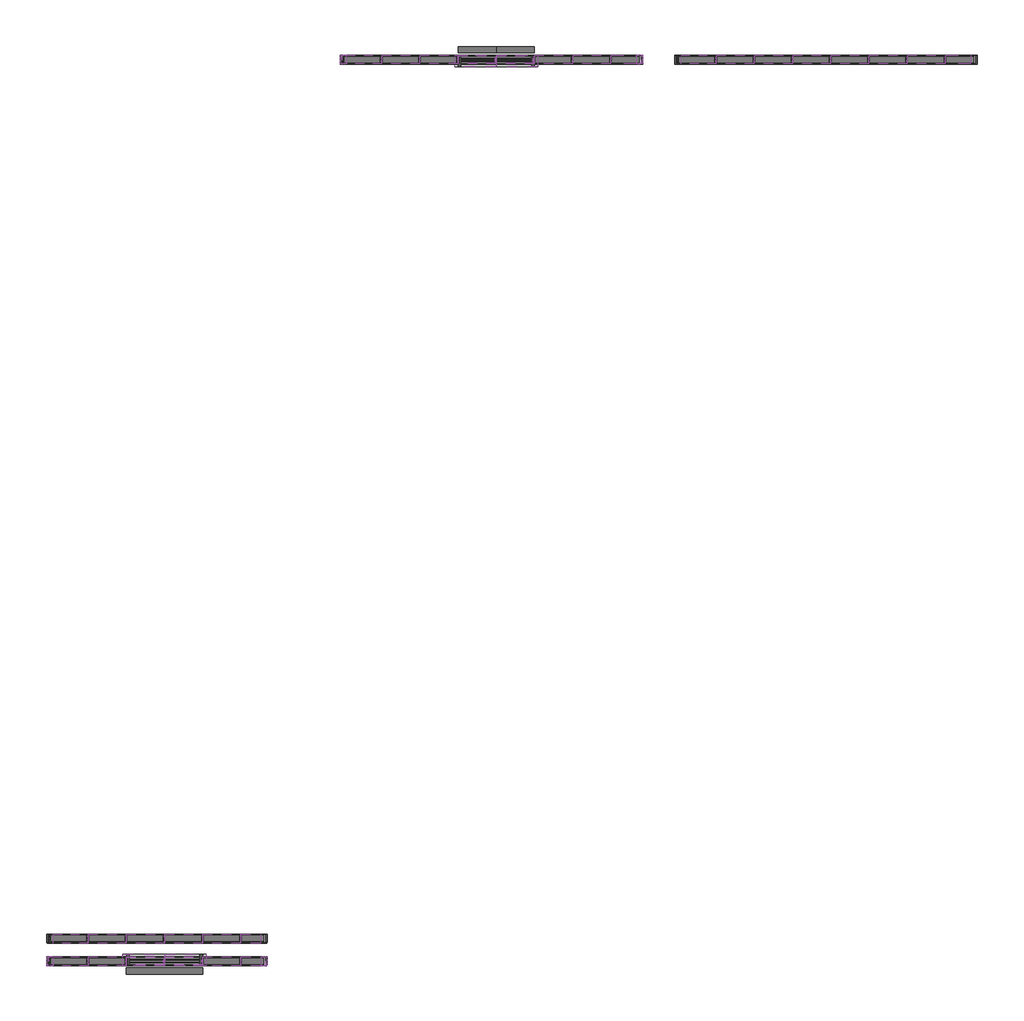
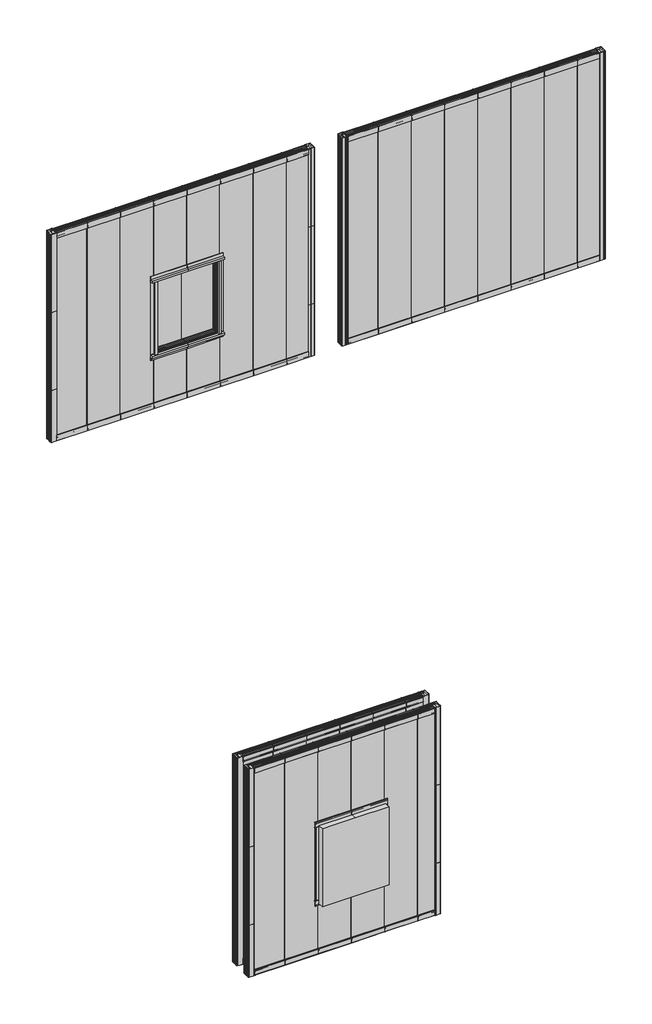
# One storey: 84 members, 35 plates.
"""IFC4 building model written with IfcOpenShell, lengths in millimetres."""

from ifc_helpers import new_model, si_unit, origin, place, context, project, spatial, transform, mapped, element, save
from components import rectangular_mullion_01f2946b, rectangular_mullion_2936a97d, rectangular_mullion_1fbdb84d, rectangular_mullion_70242c1d, rectangular_mullion_5fa05575, rectangular_mullion_d2092e84, rectangular_mullion_fbaaf38e, rectangular_mullion_ddbf69e2, rectangular_mullion_852f4a10, rectangular_mullion_49b8ade9, rectangular_mullion_8b3feda1, rectangular_mullion_a3500bbd, rectangular_mullion_28affbc6, rectangular_mullion_942cc931, rectangular_mullion_b4a1a5f1, rectangular_mullion_7adac3f0, rectangular_mullion_8cb09d31, rectangular_mullion_b986652d, rectangular_mullion_547a187c, rectangular_mullion_7d930778, rectangular_mullion_a5aec3a2, rectangular_mullion_7335db9d, rectangular_mullion_fd8bee49, rectangular_mullion_542187d4, rectangular_mullion_270d84ba, rectangular_mullion_623c11ca, rectangular_mullion_7f755270, rectangular_mullion_ff423d24, rectangular_mullion_3d357507, rectangular_mullion_f1b3a113, rectangular_mullion_227ebff7, rectangular_mullion_7b4f4ae0, plate_ff002d2a, plate_b110d553, plate_f4df6e33, plate_dc679179, plate_ac36bfde, plate_43dbd124, plate_925df577, plate_27379fa9, plate_14fe3c05, plate_b84fe445, empty_system_panel_empty_9b879c41, empty_system_panel_empty_1e4b9aef

model = new_model("IFC4")

# Units and contexts
model_context = context("Model", 3, world=origin())
ifc_project = project(units=[si_unit("LENGTHUNIT", "METRE", prefix="MILLI")], contexts=[model_context])

# Site, building, storey
site = spatial("IfcSite", under=ifc_project)
building = spatial("IfcBuilding", under=site)
storey = spatial("IfcBuildingStorey", under=building, Name="Danpal-K12", Elevation=0.0)

# Members
placement = place(None, origin())
rectangular_mullion_shape = rectangular_mullion_01f2946b(model_context)
element("IfcMember", 1, ObjectType="Rectangular Mullion : Danpal_K12_End-Mullion_B1", at=placement, inside=storey, context=model_context, shape_type="MappedRepresentation", body=[
    mapped(rectangular_mullion_shape, transform((764.2822678, 2597.5512666, 4000.0), x_axis=(-1.0, 0.0, 0.0), y_axis=(0.0, -1.0, 0.0), z_axis=(0.0, 0.0, 1.0))),
])
rectangular_mullion_2_shape = rectangular_mullion_2936a97d(model_context)
element("IfcMember", 2, ObjectType="Rectangular Mullion : Danpal_K12_End-Mullion_B2", at=placement, inside=storey, context=model_context, shape_type="MappedRepresentation", body=[
    mapped(rectangular_mullion_2_shape, transform((4264.2822678, 2597.5512666, 0.0), x_axis=(1.0, 0.0, 0.0), y_axis=(0.0, -1.0, 0.0), z_axis=(0.0, 0.0, -1.0))),
])
rectangular_mullion_3_shape = rectangular_mullion_1fbdb84d(model_context)
element("IfcMember", 3, ObjectType="Rectangular Mullion : Danpal_K12_End-Mullion_B2", at=placement, inside=storey, context=model_context, shape_type="MappedRepresentation", body=[
    mapped(rectangular_mullion_3_shape, transform((2029.8999142, 2237.5512666, 4000.0), x_axis=(0.0, 0.0, 1.0), y_axis=(0.0, -1.0, 0.0), z_axis=(1.0, 0.0, 0.0))),
])
element("IfcMember", 4, ObjectType="Rectangular Mullion : Danpal_K12_End-Mullion_B2", at=placement, inside=storey, context=model_context, shape_type="MappedRepresentation", body=[
    mapped(rectangular_mullion_3_shape, transform((2634.8999142, 2237.5512666, 4000.0), x_axis=(0.0, 0.0, 1.0), y_axis=(0.0, -1.0, 0.0), z_axis=(1.0, 0.0, 0.0))),
])
element("IfcMember", 5, ObjectType="Rectangular Mullion : Danpal_K12_End-Mullion_B2", at=placement, inside=storey, context=model_context, shape_type="MappedRepresentation", body=[
    mapped(rectangular_mullion_3_shape, transform((3239.8999142, 2237.5512666, 4000.0), x_axis=(0.0, 0.0, 1.0), y_axis=(0.0, -1.0, 0.0), z_axis=(1.0, 0.0, 0.0))),
])
element("IfcMember", 6, ObjectType="Rectangular Mullion : Danpal_K12_End-Mullion_B2", at=placement, inside=storey, context=model_context, shape_type="MappedRepresentation", body=[
    mapped(rectangular_mullion_3_shape, transform((3844.8999142, 2237.5512666, 4000.0), x_axis=(0.0, 0.0, 1.0), y_axis=(0.0, -1.0, 0.0), z_axis=(1.0, 0.0, 0.0))),
])
element("IfcMember", 7, ObjectType="Rectangular Mullion : Danpal_K12_End-Mullion_B2", at=placement, inside=storey, context=model_context, shape_type="MappedRepresentation", body=[
    mapped(rectangular_mullion_3_shape, transform((2029.8999142, 2597.5512666, 4000.0), x_axis=(0.0, 0.0, 1.0), y_axis=(0.0, -1.0, 0.0), z_axis=(1.0, 0.0, 0.0))),
])
element("IfcMember", 8, ObjectType="Rectangular Mullion : Danpal_K12_End-Mullion_B2", at=placement, inside=storey, context=model_context, shape_type="MappedRepresentation", body=[
    mapped(rectangular_mullion_3_shape, transform((2634.8999142, 2597.5512666, 4000.0), x_axis=(0.0, 0.0, 1.0), y_axis=(0.0, -1.0, 0.0), z_axis=(1.0, 0.0, 0.0))),
])
element("IfcMember", 9, ObjectType="Rectangular Mullion : Danpal_K12_End-Mullion_B2", at=placement, inside=storey, context=model_context, shape_type="MappedRepresentation", body=[
    mapped(rectangular_mullion_3_shape, transform((3239.8999142, 2597.5512666, 4000.0), x_axis=(0.0, 0.0, 1.0), y_axis=(0.0, -1.0, 0.0), z_axis=(1.0, 0.0, 0.0))),
])
element("IfcMember", 10, ObjectType="Rectangular Mullion : Danpal_K12_End-Mullion_B2", at=placement, inside=storey, context=model_context, shape_type="MappedRepresentation", body=[
    mapped(rectangular_mullion_3_shape, transform((3844.8999142, 2597.5512666, 4000.0), x_axis=(0.0, 0.0, 1.0), y_axis=(0.0, -1.0, 0.0), z_axis=(1.0, 0.0, 0.0))),
])
rectangular_mullion_4_shape = rectangular_mullion_70242c1d(model_context)
element("IfcMember", 11, ObjectType="Rectangular Mullion : Danpal_K12_End-Mullion_B1", at=placement, inside=storey, context=model_context, shape_type="MappedRepresentation", body=[
    mapped(rectangular_mullion_4_shape, transform((2029.8999142, 2237.5512666, 0.0), x_axis=(0.0, 0.0, -1.0), y_axis=(0.0, -1.0, 0.0), z_axis=(-1.0, 0.0, 0.0))),
])
element("IfcMember", 12, ObjectType="Rectangular Mullion : Danpal_K12_End-Mullion_B1", at=placement, inside=storey, context=model_context, shape_type="MappedRepresentation", body=[
    mapped(rectangular_mullion_4_shape, transform((2634.8999142, 2237.5512666, 0.0), x_axis=(0.0, 0.0, -1.0), y_axis=(0.0, -1.0, 0.0), z_axis=(-1.0, 0.0, 0.0))),
])
element("IfcMember", 13, ObjectType="Rectangular Mullion : Danpal_K12_End-Mullion_B1", at=placement, inside=storey, context=model_context, shape_type="MappedRepresentation", body=[
    mapped(rectangular_mullion_4_shape, transform((3239.8999142, 2237.5512666, 0.0), x_axis=(0.0, 0.0, -1.0), y_axis=(0.0, -1.0, 0.0), z_axis=(-1.0, 0.0, 0.0))),
])
element("IfcMember", 14, ObjectType="Rectangular Mullion : Danpal_K12_End-Mullion_B1", at=placement, inside=storey, context=model_context, shape_type="MappedRepresentation", body=[
    mapped(rectangular_mullion_4_shape, transform((2029.8999142, 2597.5512666, 0.0), x_axis=(0.0, 0.0, -1.0), y_axis=(0.0, -1.0, 0.0), z_axis=(-1.0, 0.0, 0.0))),
])
element("IfcMember", 15, ObjectType="Rectangular Mullion : Danpal_K12_End-Mullion_B1", at=placement, inside=storey, context=model_context, shape_type="MappedRepresentation", body=[
    mapped(rectangular_mullion_4_shape, transform((2634.8999142, 2597.5512666, 0.0), x_axis=(0.0, 0.0, -1.0), y_axis=(0.0, -1.0, 0.0), z_axis=(-1.0, 0.0, 0.0))),
])
element("IfcMember", 16, ObjectType="Rectangular Mullion : Danpal_K12_End-Mullion_B1", at=placement, inside=storey, context=model_context, shape_type="MappedRepresentation", body=[
    mapped(rectangular_mullion_4_shape, transform((3239.8999142, 2597.5512666, 0.0), x_axis=(0.0, 0.0, -1.0), y_axis=(0.0, -1.0, 0.0), z_axis=(-1.0, 0.0, 0.0))),
])
element("IfcMember", 17, ObjectType="Rectangular Mullion : Danpal_K12_End-Mullion_B1", at=placement, inside=storey, context=model_context, shape_type="MappedRepresentation", body=[
    mapped(rectangular_mullion_4_shape, transform((1424.8999142, 2237.5512666, 0.0), x_axis=(0.0, 0.0, -1.0), y_axis=(0.0, -1.0, 0.0), z_axis=(-1.0, 0.0, 0.0))),
])
element("IfcMember", 18, ObjectType="Rectangular Mullion : Danpal_K12_End-Mullion_B1", at=placement, inside=storey, context=model_context, shape_type="MappedRepresentation", body=[
    mapped(rectangular_mullion_4_shape, transform((1424.8999142, 2597.5512666, 0.0), x_axis=(0.0, 0.0, -1.0), y_axis=(0.0, -1.0, 0.0), z_axis=(-1.0, 0.0, 0.0))),
])
rectangular_mullion_5_shape = rectangular_mullion_5fa05575(model_context)
element("IfcMember", 19, ObjectType="Rectangular Mullion : Danpal_K12_Middle-Mullion_B2", at=placement, inside=storey, context=model_context, shape_type="MappedRepresentation", body=[
    mapped(rectangular_mullion_5_shape, transform((2634.8999142, 2237.5512666, 1000.0), x_axis=(0.0, 0.0, 1.0), y_axis=(0.0, -1.0, 0.0), z_axis=(1.0, 0.0, 0.0))),
])
element("IfcMember", 20, ObjectType="Rectangular Mullion : Danpal_K12_Middle-Mullion_B2", at=placement, inside=storey, context=model_context, shape_type="MappedRepresentation", body=[
    mapped(rectangular_mullion_5_shape, transform((3295.5175607, 2237.5512666, 1000.0), x_axis=(0.0, 0.0, 1.0), y_axis=(0.0, -1.0, 0.0), z_axis=(1.0, 0.0, 0.0))),
])
rectangular_mullion_6_shape = rectangular_mullion_d2092e84(model_context)
element("IfcMember", 21, ObjectType="Rectangular Mullion : Danpal_K12_Middle-Mullion_B1", at=placement, inside=storey, context=model_context, shape_type="MappedRepresentation", body=[
    mapped(rectangular_mullion_6_shape, transform((2634.8999142, 2237.5512666, 2500.0), x_axis=(0.0, 0.0, 1.0), y_axis=(0.0, -1.0, 0.0), z_axis=(1.0, 0.0, 0.0))),
])
element("IfcMember", 22, ObjectType="Rectangular Mullion : Danpal_K12_Middle-Mullion_B1", at=placement, inside=storey, context=model_context, shape_type="MappedRepresentation", body=[
    mapped(rectangular_mullion_6_shape, transform((3295.5175607, 2237.5512666, 2500.0), x_axis=(0.0, 0.0, 1.0), y_axis=(0.0, -1.0, 0.0), z_axis=(1.0, 0.0, 0.0))),
])
rectangular_mullion_7_shape = rectangular_mullion_fbaaf38e(model_context)
element("IfcMember", 23, ObjectType="Rectangular Mullion : Danpal_K12_Middle-Mullion_B1", at=placement, inside=storey, context=model_context, shape_type="MappedRepresentation", body=[
    mapped(rectangular_mullion_7_shape, transform((3239.8999142, 2237.5512666, 1050.7940962), x_axis=(1.0, 0.0, 0.0), y_axis=(0.0, -1.0, 0.0), z_axis=(0.0, 0.0, -1.0))),
])
rectangular_mullion_8_shape = rectangular_mullion_ddbf69e2(model_context)
element("IfcMember", 24, ObjectType="Rectangular Mullion : Danpal_K12_Middle-Mullion_B2", at=placement, inside=storey, context=model_context, shape_type="MappedRepresentation", body=[
    mapped(rectangular_mullion_8_shape, transform((2029.8999142, 2237.5512666, 1050.7940962), x_axis=(1.0, 0.0, 0.0), y_axis=(0.0, -1.0, 0.0), z_axis=(0.0, 0.0, -1.0))),
])
rectangular_mullion_9_shape = rectangular_mullion_852f4a10(model_context)
element("IfcMember", 25, ObjectType="Rectangular Mullion : Danpal_K12_End-Mullion_B1", at=placement, inside=storey, context=model_context, shape_type="MappedRepresentation", body=[
    mapped(rectangular_mullion_9_shape, transform((764.2822678, 2237.5512666, 2500.0), x_axis=(-1.0, 0.0, 0.0), y_axis=(0.0, -1.0, 0.0), z_axis=(0.0, 0.0, 1.0))),
])
rectangular_mullion_10_shape = rectangular_mullion_49b8ade9(model_context)
element("IfcMember", 26, ObjectType="Rectangular Mullion : Danpal_K12_End-Mullion_B2", at=placement, inside=storey, context=model_context, shape_type="MappedRepresentation", body=[
    mapped(rectangular_mullion_10_shape, transform((4264.2822678, 2237.5512666, 1000.0), x_axis=(1.0, 0.0, 0.0), y_axis=(0.0, -1.0, 0.0), z_axis=(0.0, 0.0, -1.0))),
])
rectangular_mullion_11_shape = rectangular_mullion_8b3feda1(model_context)
element("IfcMember", 27, ObjectType="Rectangular Mullion : Danpal_K12_End-Mullion_B1", at=placement, inside=storey, context=model_context, shape_type="MappedRepresentation", body=[
    mapped(rectangular_mullion_11_shape, transform((764.2822678, 2237.5512666, 1000.0), x_axis=(-1.0, 0.0, 0.0), y_axis=(0.0, -1.0, 0.0), z_axis=(0.0, 0.0, 1.0))),
])
rectangular_mullion_12_shape = rectangular_mullion_a3500bbd(model_context)
element("IfcMember", 28, ObjectType="Rectangular Mullion : Danpal_K12_End-Mullion_B2", at=placement, inside=storey, context=model_context, shape_type="MappedRepresentation", body=[
    mapped(rectangular_mullion_12_shape, transform((4264.2822678, 2237.5512666, 0.0), x_axis=(1.0, 0.0, 0.0), y_axis=(0.0, -1.0, 0.0), z_axis=(0.0, 0.0, -1.0))),
])
rectangular_mullion_13_shape = rectangular_mullion_28affbc6(model_context)
element("IfcMember", 29, ObjectType="Rectangular Mullion : Danpal_K12_End-Mullion_B1", at=placement, inside=storey, context=model_context, shape_type="MappedRepresentation", body=[
    mapped(rectangular_mullion_13_shape, transform((870.6940104, 2237.5512666, 0.0), x_axis=(0.0, 0.0, -1.0), y_axis=(0.0, -1.0, 0.0), z_axis=(-1.0, 0.0, 0.0))),
])
element("IfcMember", 30, ObjectType="Rectangular Mullion : Danpal_K12_End-Mullion_B1", at=placement, inside=storey, context=model_context, shape_type="MappedRepresentation", body=[
    mapped(rectangular_mullion_13_shape, transform((870.6940104, 2597.5512666, 0.0), x_axis=(0.0, 0.0, -1.0), y_axis=(0.0, -1.0, 0.0), z_axis=(-1.0, 0.0, 0.0))),
])
rectangular_mullion_14_shape = rectangular_mullion_942cc931(model_context)
element("IfcMember", 31, ObjectType="Rectangular Mullion : Danpal_K12_End-Mullion_B2", at=placement, inside=storey, context=model_context, shape_type="MappedRepresentation", body=[
    mapped(rectangular_mullion_14_shape, transform((1424.8999142, 2237.5512666, 4000.0), x_axis=(0.0, 0.0, 1.0), y_axis=(0.0, -1.0, 0.0), z_axis=(1.0, 0.0, 0.0))),
])
element("IfcMember", 32, ObjectType="Rectangular Mullion : Danpal_K12_End-Mullion_B2", at=placement, inside=storey, context=model_context, shape_type="MappedRepresentation", body=[
    mapped(rectangular_mullion_14_shape, transform((1424.8999142, 2597.5512666, 4000.0), x_axis=(0.0, 0.0, 1.0), y_axis=(0.0, -1.0, 0.0), z_axis=(1.0, 0.0, 0.0))),
])
rectangular_mullion_15_shape = rectangular_mullion_b4a1a5f1(model_context)
element("IfcMember", 33, ObjectType="Rectangular Mullion : Danpal_K12_End-Mullion_B2", at=placement, inside=storey, context=model_context, shape_type="MappedRepresentation", body=[
    mapped(rectangular_mullion_15_shape, transform((4157.8705252, 2597.5512666, 4000.0), x_axis=(0.0, 0.0, 1.0), y_axis=(0.0, -1.0, 0.0), z_axis=(1.0, 0.0, 0.0))),
])
element("IfcMember", 34, ObjectType="Rectangular Mullion : Danpal_K12_End-Mullion_B2", at=placement, inside=storey, context=model_context, shape_type="MappedRepresentation", body=[
    mapped(rectangular_mullion_15_shape, transform((4157.8705252, 2237.5512666, 4000.0), x_axis=(0.0, 0.0, 1.0), y_axis=(0.0, -1.0, 0.0), z_axis=(1.0, 0.0, 0.0))),
])
rectangular_mullion_16_shape = rectangular_mullion_7adac3f0(model_context)
element("IfcMember", 35, ObjectType="Rectangular Mullion : Danpal_K12_End-Mullion_B1", at=placement, inside=storey, context=model_context, shape_type="MappedRepresentation", body=[
    mapped(rectangular_mullion_16_shape, transform((3844.8999142, 2597.5512666, 0.0), x_axis=(0.0, 0.0, -1.0), y_axis=(0.0, -1.0, 0.0), z_axis=(-1.0, 0.0, 0.0))),
])
element("IfcMember", 36, ObjectType="Rectangular Mullion : Danpal_K12_End-Mullion_B1", at=placement, inside=storey, context=model_context, shape_type="MappedRepresentation", body=[
    mapped(rectangular_mullion_16_shape, transform((3844.8999142, 2237.5512666, 0.0), x_axis=(0.0, 0.0, -1.0), y_axis=(0.0, -1.0, 0.0), z_axis=(-1.0, 0.0, 0.0))),
])
element("IfcMember", 37, ObjectType="Rectangular Mullion : Danpal_K12_End-Mullion_B1", at=placement, inside=storey, context=model_context, shape_type="MappedRepresentation", body=[
    mapped(rectangular_mullion_9_shape, transform((764.2822678, 2237.5512666, 4000.0), x_axis=(-1.0, 0.0, 0.0), y_axis=(0.0, -1.0, 0.0), z_axis=(0.0, 0.0, 1.0))),
])
element("IfcMember", 38, ObjectType="Rectangular Mullion : Danpal_K12_End-Mullion_B2", at=placement, inside=storey, context=model_context, shape_type="MappedRepresentation", body=[
    mapped(rectangular_mullion_10_shape, transform((4264.2822678, 2237.5512666, 2500.0), x_axis=(1.0, 0.0, 0.0), y_axis=(0.0, -1.0, 0.0), z_axis=(0.0, 0.0, -1.0))),
])
rectangular_mullion_17_shape = rectangular_mullion_8cb09d31(model_context)
element("IfcMember", 39, ObjectType="Rectangular Mullion : Danpal_K12_End-Mullion_B2", at=placement, inside=storey, context=model_context, shape_type="MappedRepresentation", body=[
    mapped(rectangular_mullion_17_shape, transform((7889.8999142, 16637.5512666, 4000.0), x_axis=(0.0, 0.0, 1.0), y_axis=(0.0, -1.0, 0.0), z_axis=(1.0, 0.0, 0.0))),
])
element("IfcMember", 40, ObjectType="Rectangular Mullion : Danpal_K12_End-Mullion_B2", at=placement, inside=storey, context=model_context, shape_type="MappedRepresentation", body=[
    mapped(rectangular_mullion_17_shape, transform((8494.8999142, 16637.5512666, 4000.0), x_axis=(0.0, 0.0, 1.0), y_axis=(0.0, -1.0, 0.0), z_axis=(1.0, 0.0, 0.0))),
])
element("IfcMember", 41, ObjectType="Rectangular Mullion : Danpal_K12_End-Mullion_B2", at=placement, inside=storey, context=model_context, shape_type="MappedRepresentation", body=[
    mapped(rectangular_mullion_17_shape, transform((9099.8999142, 16637.5512666, 4000.0), x_axis=(0.0, 0.0, 1.0), y_axis=(0.0, -1.0, 0.0), z_axis=(1.0, 0.0, 0.0))),
])
element("IfcMember", 42, ObjectType="Rectangular Mullion : Danpal_K12_End-Mullion_B2", at=placement, inside=storey, context=model_context, shape_type="MappedRepresentation", body=[
    mapped(rectangular_mullion_17_shape, transform((9704.8999142, 16637.5512666, 4000.0), x_axis=(0.0, 0.0, 1.0), y_axis=(0.0, -1.0, 0.0), z_axis=(1.0, 0.0, 0.0))),
])
element("IfcMember", 43, ObjectType="Rectangular Mullion : Danpal_K12_End-Mullion_B2", at=placement, inside=storey, context=model_context, shape_type="MappedRepresentation", body=[
    mapped(rectangular_mullion_17_shape, transform((7284.8999142, 16637.5512666, 4000.0), x_axis=(0.0, 0.0, 1.0), y_axis=(0.0, -1.0, 0.0), z_axis=(1.0, 0.0, 0.0))),
])
element("IfcMember", 44, ObjectType="Rectangular Mullion : Danpal_K12_End-Mullion_B2", at=placement, inside=storey, context=model_context, shape_type="MappedRepresentation", body=[
    mapped(rectangular_mullion_17_shape, transform((6679.8999142, 16637.5512666, 4000.0), x_axis=(0.0, 0.0, 1.0), y_axis=(0.0, -1.0, 0.0), z_axis=(1.0, 0.0, 0.0))),
])
element("IfcMember", 45, ObjectType="Rectangular Mullion : Danpal_K12_End-Mullion_B2", at=placement, inside=storey, context=model_context, shape_type="MappedRepresentation", body=[
    mapped(rectangular_mullion_17_shape, transform((13189.8999142, 16637.5512666, 4000.0), x_axis=(0.0, 0.0, 1.0), y_axis=(0.0, -1.0, 0.0), z_axis=(1.0, 0.0, 0.0))),
])
element("IfcMember", 46, ObjectType="Rectangular Mullion : Danpal_K12_End-Mullion_B2", at=placement, inside=storey, context=model_context, shape_type="MappedRepresentation", body=[
    mapped(rectangular_mullion_17_shape, transform((13794.8999142, 16637.5512666, 4000.0), x_axis=(0.0, 0.0, 1.0), y_axis=(0.0, -1.0, 0.0), z_axis=(1.0, 0.0, 0.0))),
])
element("IfcMember", 47, ObjectType="Rectangular Mullion : Danpal_K12_End-Mullion_B2", at=placement, inside=storey, context=model_context, shape_type="MappedRepresentation", body=[
    mapped(rectangular_mullion_17_shape, transform((14399.8999142, 16637.5512666, 4000.0), x_axis=(0.0, 0.0, 1.0), y_axis=(0.0, -1.0, 0.0), z_axis=(1.0, 0.0, 0.0))),
])
element("IfcMember", 48, ObjectType="Rectangular Mullion : Danpal_K12_End-Mullion_B2", at=placement, inside=storey, context=model_context, shape_type="MappedRepresentation", body=[
    mapped(rectangular_mullion_17_shape, transform((15004.8999142, 16637.5512666, 4000.0), x_axis=(0.0, 0.0, 1.0), y_axis=(0.0, -1.0, 0.0), z_axis=(1.0, 0.0, 0.0))),
])
element("IfcMember", 49, ObjectType="Rectangular Mullion : Danpal_K12_End-Mullion_B2", at=placement, inside=storey, context=model_context, shape_type="MappedRepresentation", body=[
    mapped(rectangular_mullion_17_shape, transform((12584.8999142, 16637.5512666, 4000.0), x_axis=(0.0, 0.0, 1.0), y_axis=(0.0, -1.0, 0.0), z_axis=(1.0, 0.0, 0.0))),
])
element("IfcMember", 50, ObjectType="Rectangular Mullion : Danpal_K12_End-Mullion_B2", at=placement, inside=storey, context=model_context, shape_type="MappedRepresentation", body=[
    mapped(rectangular_mullion_17_shape, transform((11979.8999142, 16637.5512666, 4000.0), x_axis=(0.0, 0.0, 1.0), y_axis=(0.0, -1.0, 0.0), z_axis=(1.0, 0.0, 0.0))),
])
rectangular_mullion_18_shape = rectangular_mullion_b986652d(model_context)
element("IfcMember", 51, ObjectType="Rectangular Mullion : Danpal_K12_End-Mullion_B1", at=placement, inside=storey, context=model_context, shape_type="MappedRepresentation", body=[
    mapped(rectangular_mullion_18_shape, transform((5520.6940104, 16637.5512666, 0.0), x_axis=(0.0, 0.0, -1.0), y_axis=(0.0, -1.0, 0.0), z_axis=(-1.0, 0.0, 0.0))),
])
element("IfcMember", 52, ObjectType="Rectangular Mullion : Danpal_K12_End-Mullion_B1", at=placement, inside=storey, context=model_context, shape_type="MappedRepresentation", body=[
    mapped(rectangular_mullion_18_shape, transform((10820.6940104, 16637.5512666, 0.0), x_axis=(0.0, 0.0, -1.0), y_axis=(0.0, -1.0, 0.0), z_axis=(-1.0, 0.0, 0.0))),
])
rectangular_mullion_19_shape = rectangular_mullion_547a187c(model_context)
element("IfcMember", 53, ObjectType="Rectangular Mullion : Danpal_K12_End-Mullion_B1", at=placement, inside=storey, context=model_context, shape_type="MappedRepresentation", body=[
    mapped(rectangular_mullion_19_shape, transform((7889.8999142, 16637.5512666, 0.0), x_axis=(0.0, 0.0, -1.0), y_axis=(0.0, -1.0, 0.0), z_axis=(-1.0, 0.0, 0.0))),
])
element("IfcMember", 54, ObjectType="Rectangular Mullion : Danpal_K12_End-Mullion_B1", at=placement, inside=storey, context=model_context, shape_type="MappedRepresentation", body=[
    mapped(rectangular_mullion_19_shape, transform((8494.8999142, 16637.5512666, 0.0), x_axis=(0.0, 0.0, -1.0), y_axis=(0.0, -1.0, 0.0), z_axis=(-1.0, 0.0, 0.0))),
])
element("IfcMember", 55, ObjectType="Rectangular Mullion : Danpal_K12_End-Mullion_B1", at=placement, inside=storey, context=model_context, shape_type="MappedRepresentation", body=[
    mapped(rectangular_mullion_19_shape, transform((9099.8999142, 16637.5512666, 0.0), x_axis=(0.0, 0.0, -1.0), y_axis=(0.0, -1.0, 0.0), z_axis=(-1.0, 0.0, 0.0))),
])
element("IfcMember", 56, ObjectType="Rectangular Mullion : Danpal_K12_End-Mullion_B1", at=placement, inside=storey, context=model_context, shape_type="MappedRepresentation", body=[
    mapped(rectangular_mullion_19_shape, transform((7284.8999142, 16637.5512666, 0.0), x_axis=(0.0, 0.0, -1.0), y_axis=(0.0, -1.0, 0.0), z_axis=(-1.0, 0.0, 0.0))),
])
element("IfcMember", 57, ObjectType="Rectangular Mullion : Danpal_K12_End-Mullion_B1", at=placement, inside=storey, context=model_context, shape_type="MappedRepresentation", body=[
    mapped(rectangular_mullion_19_shape, transform((6074.8999142, 16637.5512666, 0.0), x_axis=(0.0, 0.0, -1.0), y_axis=(0.0, -1.0, 0.0), z_axis=(-1.0, 0.0, 0.0))),
])
element("IfcMember", 58, ObjectType="Rectangular Mullion : Danpal_K12_End-Mullion_B1", at=placement, inside=storey, context=model_context, shape_type="MappedRepresentation", body=[
    mapped(rectangular_mullion_19_shape, transform((6679.8999142, 16637.5512666, 0.0), x_axis=(0.0, 0.0, -1.0), y_axis=(0.0, -1.0, 0.0), z_axis=(-1.0, 0.0, 0.0))),
])
element("IfcMember", 59, ObjectType="Rectangular Mullion : Danpal_K12_End-Mullion_B1", at=placement, inside=storey, context=model_context, shape_type="MappedRepresentation", body=[
    mapped(rectangular_mullion_19_shape, transform((13189.8999142, 16637.5512666, 0.0), x_axis=(0.0, 0.0, -1.0), y_axis=(0.0, -1.0, 0.0), z_axis=(-1.0, 0.0, 0.0))),
])
element("IfcMember", 60, ObjectType="Rectangular Mullion : Danpal_K12_End-Mullion_B1", at=placement, inside=storey, context=model_context, shape_type="MappedRepresentation", body=[
    mapped(rectangular_mullion_19_shape, transform((13794.8999142, 16637.5512666, 0.0), x_axis=(0.0, 0.0, -1.0), y_axis=(0.0, -1.0, 0.0), z_axis=(-1.0, 0.0, 0.0))),
])
element("IfcMember", 61, ObjectType="Rectangular Mullion : Danpal_K12_End-Mullion_B1", at=placement, inside=storey, context=model_context, shape_type="MappedRepresentation", body=[
    mapped(rectangular_mullion_19_shape, transform((14399.8999142, 16637.5512666, 0.0), x_axis=(0.0, 0.0, -1.0), y_axis=(0.0, -1.0, 0.0), z_axis=(-1.0, 0.0, 0.0))),
])
element("IfcMember", 62, ObjectType="Rectangular Mullion : Danpal_K12_End-Mullion_B1", at=placement, inside=storey, context=model_context, shape_type="MappedRepresentation", body=[
    mapped(rectangular_mullion_19_shape, transform((12584.8999142, 16637.5512666, 0.0), x_axis=(0.0, 0.0, -1.0), y_axis=(0.0, -1.0, 0.0), z_axis=(-1.0, 0.0, 0.0))),
])
element("IfcMember", 63, ObjectType="Rectangular Mullion : Danpal_K12_End-Mullion_B1", at=placement, inside=storey, context=model_context, shape_type="MappedRepresentation", body=[
    mapped(rectangular_mullion_19_shape, transform((11374.8999142, 16637.5512666, 0.0), x_axis=(0.0, 0.0, -1.0), y_axis=(0.0, -1.0, 0.0), z_axis=(-1.0, 0.0, 0.0))),
])
element("IfcMember", 64, ObjectType="Rectangular Mullion : Danpal_K12_End-Mullion_B1", at=placement, inside=storey, context=model_context, shape_type="MappedRepresentation", body=[
    mapped(rectangular_mullion_19_shape, transform((11979.8999142, 16637.5512666, 0.0), x_axis=(0.0, 0.0, -1.0), y_axis=(0.0, -1.0, 0.0), z_axis=(-1.0, 0.0, 0.0))),
])
rectangular_mullion_20_shape = rectangular_mullion_7d930778(model_context)
element("IfcMember", 65, ObjectType="Rectangular Mullion : Danpal_K12_End-Mullion_B2", at=placement, inside=storey, context=model_context, shape_type="MappedRepresentation", body=[
    mapped(rectangular_mullion_20_shape, transform((10107.8705252, 16637.5512666, 4000.0), x_axis=(0.0, 0.0, 1.0), y_axis=(0.0, -1.0, 0.0), z_axis=(1.0, 0.0, 0.0))),
])
element("IfcMember", 66, ObjectType="Rectangular Mullion : Danpal_K12_End-Mullion_B2", at=placement, inside=storey, context=model_context, shape_type="MappedRepresentation", body=[
    mapped(rectangular_mullion_20_shape, transform((15407.8705252, 16637.5512666, 4000.0), x_axis=(0.0, 0.0, 1.0), y_axis=(0.0, -1.0, 0.0), z_axis=(1.0, 0.0, 0.0))),
])
rectangular_mullion_21_shape = rectangular_mullion_a5aec3a2(model_context)
element("IfcMember", 67, ObjectType="Rectangular Mullion : Danpal_K12_End-Mullion_B1", at=placement, inside=storey, context=model_context, shape_type="MappedRepresentation", body=[
    mapped(rectangular_mullion_21_shape, transform((9704.8999142, 16637.5512666, 0.0), x_axis=(0.0, 0.0, -1.0), y_axis=(0.0, -1.0, 0.0), z_axis=(-1.0, 0.0, 0.0))),
])
element("IfcMember", 68, ObjectType="Rectangular Mullion : Danpal_K12_End-Mullion_B1", at=placement, inside=storey, context=model_context, shape_type="MappedRepresentation", body=[
    mapped(rectangular_mullion_21_shape, transform((15004.8999142, 16637.5512666, 0.0), x_axis=(0.0, 0.0, -1.0), y_axis=(0.0, -1.0, 0.0), z_axis=(-1.0, 0.0, 0.0))),
])
rectangular_mullion_22_shape = rectangular_mullion_7335db9d(model_context)
element("IfcMember", 69, ObjectType="Rectangular Mullion : Danpal_K12_End-Mullion_B2", at=placement, inside=storey, context=model_context, shape_type="MappedRepresentation", body=[
    mapped(rectangular_mullion_22_shape, transform((6074.8999142, 16637.5512666, 4000.0), x_axis=(0.0, 0.0, 1.0), y_axis=(0.0, -1.0, 0.0), z_axis=(1.0, 0.0, 0.0))),
])
element("IfcMember", 70, ObjectType="Rectangular Mullion : Danpal_K12_End-Mullion_B2", at=placement, inside=storey, context=model_context, shape_type="MappedRepresentation", body=[
    mapped(rectangular_mullion_22_shape, transform((11374.8999142, 16637.5512666, 4000.0), x_axis=(0.0, 0.0, 1.0), y_axis=(0.0, -1.0, 0.0), z_axis=(1.0, 0.0, 0.0))),
])
rectangular_mullion_23_shape = rectangular_mullion_fd8bee49(model_context)
element("IfcMember", 71, ObjectType="Rectangular Mullion : Danpal_K12_Middle-Mullion_B1", at=placement, inside=storey, context=model_context, shape_type="MappedRepresentation", body=[
    mapped(rectangular_mullion_23_shape, transform((7889.8999142, 16637.5512666, 2500.0), x_axis=(0.0, 0.0, 1.0), y_axis=(0.0, -1.0, 0.0), z_axis=(1.0, 0.0, 0.0))),
])
element("IfcMember", 72, ObjectType="Rectangular Mullion : Danpal_K12_Middle-Mullion_B1", at=placement, inside=storey, context=model_context, shape_type="MappedRepresentation", body=[
    mapped(rectangular_mullion_23_shape, transform((8550.5175607, 16637.5512666, 2500.0), x_axis=(0.0, 0.0, 1.0), y_axis=(0.0, -1.0, 0.0), z_axis=(1.0, 0.0, 0.0))),
])
rectangular_mullion_24_shape = rectangular_mullion_542187d4(model_context)
element("IfcMember", 73, ObjectType="Rectangular Mullion : Danpal_K12_Middle-Mullion_B2", at=placement, inside=storey, context=model_context, shape_type="MappedRepresentation", body=[
    mapped(rectangular_mullion_24_shape, transform((7889.8999142, 16637.5512666, 1000.0), x_axis=(0.0, 0.0, 1.0), y_axis=(0.0, -1.0, 0.0), z_axis=(1.0, 0.0, 0.0))),
])
element("IfcMember", 74, ObjectType="Rectangular Mullion : Danpal_K12_Middle-Mullion_B2", at=placement, inside=storey, context=model_context, shape_type="MappedRepresentation", body=[
    mapped(rectangular_mullion_24_shape, transform((8550.5175607, 16637.5512666, 1000.0), x_axis=(0.0, 0.0, 1.0), y_axis=(0.0, -1.0, 0.0), z_axis=(1.0, 0.0, 0.0))),
])
rectangular_mullion_25_shape = rectangular_mullion_270d84ba(model_context)
element("IfcMember", 75, ObjectType="Rectangular Mullion : Danpal_K12_Middle-Mullion_B2", at=placement, inside=storey, context=model_context, shape_type="MappedRepresentation", body=[
    mapped(rectangular_mullion_25_shape, transform((7284.8999142, 16637.5512666, 1050.7940962), x_axis=(1.0, 0.0, 0.0), y_axis=(0.0, -1.0, 0.0), z_axis=(0.0, 0.0, -1.0))),
])
rectangular_mullion_26_shape = rectangular_mullion_623c11ca(model_context)
element("IfcMember", 76, ObjectType="Rectangular Mullion : Danpal_K12_Middle-Mullion_B1", at=placement, inside=storey, context=model_context, shape_type="MappedRepresentation", body=[
    mapped(rectangular_mullion_26_shape, transform((8494.8999142, 16637.5512666, 1050.7940962), x_axis=(1.0, 0.0, 0.0), y_axis=(0.0, -1.0, 0.0), z_axis=(0.0, 0.0, -1.0))),
])
rectangular_mullion_27_shape = rectangular_mullion_7f755270(model_context)
element("IfcMember", 77, ObjectType="Rectangular Mullion : Danpal_K12_End-Mullion_B2", at=placement, inside=storey, context=model_context, shape_type="MappedRepresentation", body=[
    mapped(rectangular_mullion_27_shape, transform((10214.2822678, 16637.5512666, 0.0), x_axis=(1.0, 0.0, 0.0), y_axis=(0.0, -1.0, 0.0), z_axis=(0.0, 0.0, -1.0))),
])
rectangular_mullion_28_shape = rectangular_mullion_ff423d24(model_context)
element("IfcMember", 78, ObjectType="Rectangular Mullion : Danpal_K12_End-Mullion_B1", at=placement, inside=storey, context=model_context, shape_type="MappedRepresentation", body=[
    mapped(rectangular_mullion_28_shape, transform((5414.2822678, 16637.5512666, 4000.0), x_axis=(-1.0, 0.0, 0.0), y_axis=(0.0, -1.0, 0.0), z_axis=(0.0, 0.0, 1.0))),
])
rectangular_mullion_29_shape = rectangular_mullion_3d357507(model_context)
element("IfcMember", 79, ObjectType="Rectangular Mullion : Danpal_K12_End-Mullion_B2", at=placement, inside=storey, context=model_context, shape_type="MappedRepresentation", body=[
    mapped(rectangular_mullion_29_shape, transform((10214.2822678, 16637.5512666, 2500.0), x_axis=(1.0, 0.0, 0.0), y_axis=(0.0, -1.0, 0.0), z_axis=(0.0, 0.0, -1.0))),
])
element("IfcMember", 80, ObjectType="Rectangular Mullion : Danpal_K12_End-Mullion_B1", at=placement, inside=storey, context=model_context, shape_type="MappedRepresentation", body=[
    mapped(rectangular_mullion_28_shape, transform((5414.2822678, 16637.5512666, 2500.0), x_axis=(-1.0, 0.0, 0.0), y_axis=(0.0, -1.0, 0.0), z_axis=(0.0, 0.0, 1.0))),
])
element("IfcMember", 81, ObjectType="Rectangular Mullion : Danpal_K12_End-Mullion_B2", at=placement, inside=storey, context=model_context, shape_type="MappedRepresentation", body=[
    mapped(rectangular_mullion_29_shape, transform((10214.2822678, 16637.5512666, 1000.0), x_axis=(1.0, 0.0, 0.0), y_axis=(0.0, -1.0, 0.0), z_axis=(0.0, 0.0, -1.0))),
])
rectangular_mullion_30_shape = rectangular_mullion_f1b3a113(model_context)
element("IfcMember", 82, ObjectType="Rectangular Mullion : Danpal_K12_End-Mullion_B1", at=placement, inside=storey, context=model_context, shape_type="MappedRepresentation", body=[
    mapped(rectangular_mullion_30_shape, transform((5414.2822678, 16637.5512666, 1000.0), x_axis=(-1.0, 0.0, 0.0), y_axis=(0.0, -1.0, 0.0), z_axis=(0.0, 0.0, 1.0))),
])
rectangular_mullion_31_shape = rectangular_mullion_227ebff7(model_context)
element("IfcMember", 83, ObjectType="Rectangular Mullion : Danpal_K12_End-Mullion_B2", at=placement, inside=storey, context=model_context, shape_type="MappedRepresentation", body=[
    mapped(rectangular_mullion_31_shape, transform((15514.2822678, 16637.5512666, 0.0), x_axis=(1.0, 0.0, 0.0), y_axis=(0.0, -1.0, 0.0), z_axis=(0.0, 0.0, -1.0))),
])
rectangular_mullion_32_shape = rectangular_mullion_7b4f4ae0(model_context)
element("IfcMember", 84, ObjectType="Rectangular Mullion : Danpal_K12_End-Mullion_B1", at=placement, inside=storey, context=model_context, shape_type="MappedRepresentation", body=[
    mapped(rectangular_mullion_32_shape, transform((10714.2822678, 16637.5512666, 4000.0), x_axis=(-1.0, 0.0, 0.0), y_axis=(0.0, -1.0, 0.0), z_axis=(0.0, 0.0, 1.0))),
])

# Plates
plate_shape = plate_ff002d2a(model_context)
element("IfcPlate", 85, ObjectType="Walls_External-Walls_Danpal_Danpatherm-K12 : Walls_External-Walls_Danpal_Danpatherm-K12", at=placement, inside=storey, context=model_context, shape_type="MappedRepresentation", body=[
    mapped(plate_shape, transform((2332.3999142, 2237.5512666, 50.7940962), x_axis=(1.0, 0.0, 0.0), y_axis=(0.0, 1.0, 0.0), z_axis=(0.0, 0.0, 1.0))),
])
element("IfcPlate", 86, ObjectType="Walls_External-Walls_Danpal_Danpatherm-K12 : Walls_External-Walls_Danpal_Danpatherm-K12", at=placement, inside=storey, context=model_context, shape_type="MappedRepresentation", body=[
    mapped(plate_shape, transform((2937.3999142, 2237.5512666, 50.7940962), x_axis=(1.0, 0.0, 0.0), y_axis=(0.0, 1.0, 0.0), z_axis=(0.0, 0.0, 1.0))),
])
plate_2_shape = plate_b110d553(model_context)
element("IfcPlate", 87, ObjectType="Walls_External-Walls_Danpal_Danpatherm-K12 : Walls_External-Walls_Danpal_Danpatherm-K12", at=placement, inside=storey, context=model_context, shape_type="MappedRepresentation", body=[
    mapped(plate_2_shape, transform((4027.0940429, 2237.5512666, 50.7940962), x_axis=(1.0, 0.0, 0.0), y_axis=(0.0, 1.0, 0.0), z_axis=(0.0, 0.0, 1.0))),
])
plate_3_shape = plate_f4df6e33(model_context)
element("IfcPlate", 88, ObjectType="Walls_External-Walls_Danpal_Danpatherm-K12 : Walls_External-Walls_Danpal_Danpatherm-K12", at=placement, inside=storey, context=model_context, shape_type="MappedRepresentation", body=[
    mapped(plate_3_shape, transform((2332.3999142, 2237.5512666, 2500.0), x_axis=(1.0, 0.0, 0.0), y_axis=(0.0, 1.0, 0.0), z_axis=(0.0, 0.0, 1.0))),
])
element("IfcPlate", 89, ObjectType="Walls_External-Walls_Danpal_Danpatherm-K12 : Walls_External-Walls_Danpal_Danpatherm-K12", at=placement, inside=storey, context=model_context, shape_type="MappedRepresentation", body=[
    mapped(plate_3_shape, transform((2937.3999142, 2237.5512666, 2500.0), x_axis=(1.0, 0.0, 0.0), y_axis=(0.0, 1.0, 0.0), z_axis=(0.0, 0.0, 1.0))),
])
plate_4_shape = plate_dc679179(model_context)
element("IfcPlate", 90, ObjectType="Walls_External-Walls_Danpal_Danpatherm-K12 : Walls_External-Walls_Danpal_Danpatherm-K12", at=placement, inside=storey, context=model_context, shape_type="MappedRepresentation", body=[
    mapped(plate_4_shape, transform((1119.9881391, 2597.5512666, 50.7940962), x_axis=(1.0, 0.0, 0.0), y_axis=(0.0, 1.0, 0.0), z_axis=(0.0, 0.0, 1.0))),
])
plate_5_shape = plate_ac36bfde(model_context)
element("IfcPlate", 91, ObjectType="Walls_External-Walls_Danpal_Danpatherm-K12 : Walls_External-Walls_Danpal_Danpatherm-K12", at=placement, inside=storey, context=model_context, shape_type="MappedRepresentation", body=[
    mapped(plate_5_shape, transform((2332.3999142, 2597.5512666, 50.7940962), x_axis=(1.0, 0.0, 0.0), y_axis=(0.0, 1.0, 0.0), z_axis=(0.0, 0.0, 1.0))),
])
element("IfcPlate", 92, ObjectType="Walls_External-Walls_Danpal_Danpatherm-K12 : Walls_External-Walls_Danpal_Danpatherm-K12", at=placement, inside=storey, context=model_context, shape_type="MappedRepresentation", body=[
    mapped(plate_5_shape, transform((2937.3999142, 2597.5512666, 50.7940962), x_axis=(1.0, 0.0, 0.0), y_axis=(0.0, 1.0, 0.0), z_axis=(0.0, 0.0, 1.0))),
])
element("IfcPlate", 93, ObjectType="Walls_External-Walls_Danpal_Danpatherm-K12 : Walls_External-Walls_Danpal_Danpatherm-K12", at=placement, inside=storey, context=model_context, shape_type="MappedRepresentation", body=[
    mapped(plate_5_shape, transform((3542.3999142, 2597.5512666, 50.7940962), x_axis=(1.0, 0.0, 0.0), y_axis=(0.0, 1.0, 0.0), z_axis=(0.0, 0.0, 1.0))),
])
element("IfcPlate", 94, ObjectType="Walls_External-Walls_Danpal_Danpatherm-K12 : Walls_External-Walls_Danpal_Danpatherm-K12", at=placement, inside=storey, context=model_context, shape_type="MappedRepresentation", body=[
    mapped(plate_5_shape, transform((1727.3999142, 2597.5512666, 50.7940962), x_axis=(1.0, 0.0, 0.0), y_axis=(0.0, 1.0, 0.0), z_axis=(0.0, 0.0, 1.0))),
])
element("IfcPlate", 95, ObjectType="Walls_External-Walls_Danpal_Danpatherm-K12 : Walls_External-Walls_Danpal_Danpatherm-K12", at=placement, inside=storey, context=model_context, shape_type="MappedRepresentation", body=[
    mapped(plate_2_shape, transform((4027.0940429, 2597.5512666, 50.7940962), x_axis=(1.0, 0.0, 0.0), y_axis=(0.0, 1.0, 0.0), z_axis=(0.0, 0.0, 1.0))),
])
element("IfcPlate", 96, ObjectType="Walls_External-Walls_Danpal_Danpatherm-K12 : Walls_External-Walls_Danpal_Danpatherm-K12", at=placement, inside=storey, context=model_context, shape_type="MappedRepresentation", body=[
    mapped(plate_4_shape, transform((1119.9881391, 2237.5512666, 50.7940962), x_axis=(1.0, 0.0, 0.0), y_axis=(0.0, 1.0, 0.0), z_axis=(0.0, 0.0, 1.0))),
])
element("IfcPlate", 97, ObjectType="Walls_External-Walls_Danpal_Danpatherm-K12 : Walls_External-Walls_Danpal_Danpatherm-K12", at=placement, inside=storey, context=model_context, shape_type="MappedRepresentation", body=[
    mapped(plate_5_shape, transform((1727.3999142, 2237.5512666, 50.7940962), x_axis=(1.0, 0.0, 0.0), y_axis=(0.0, 1.0, 0.0), z_axis=(0.0, 0.0, 1.0))),
])
element("IfcPlate", 98, ObjectType="Walls_External-Walls_Danpal_Danpatherm-K12 : Walls_External-Walls_Danpal_Danpatherm-K12", at=placement, inside=storey, context=model_context, shape_type="MappedRepresentation", body=[
    mapped(plate_5_shape, transform((3542.3999142, 2237.5512666, 50.7940962), x_axis=(1.0, 0.0, 0.0), y_axis=(0.0, 1.0, 0.0), z_axis=(0.0, 0.0, 1.0))),
])
plate_6_shape = plate_43dbd124(model_context)
element("IfcPlate", 99, ObjectType="Walls_External-Walls_Danpal_Danpatherm-K12 : Walls_External-Walls_Danpal_Danpatherm-K12", at=placement, inside=storey, context=model_context, shape_type="MappedRepresentation", body=[
    mapped(plate_6_shape, transform((5769.9881391, 16637.5512666, 50.7940962), x_axis=(1.0, 0.0, 0.0), y_axis=(0.0, 1.0, 0.0), z_axis=(0.0, 0.0, 1.0))),
])
plate_7_shape = plate_925df577(model_context)
element("IfcPlate", 100, ObjectType="Walls_External-Walls_Danpal_Danpatherm-K12 : Walls_External-Walls_Danpal_Danpatherm-K12", at=placement, inside=storey, context=model_context, shape_type="MappedRepresentation", body=[
    mapped(plate_7_shape, transform((8192.3999142, 16637.5512666, 50.7940962), x_axis=(1.0, 0.0, 0.0), y_axis=(0.0, 1.0, 0.0), z_axis=(0.0, 0.0, 1.0))),
])
element("IfcPlate", 101, ObjectType="Walls_External-Walls_Danpal_Danpatherm-K12 : Walls_External-Walls_Danpal_Danpatherm-K12", at=placement, inside=storey, context=model_context, shape_type="MappedRepresentation", body=[
    mapped(plate_7_shape, transform((7587.3999142, 16637.5512666, 50.7940962), x_axis=(1.0, 0.0, 0.0), y_axis=(0.0, 1.0, 0.0), z_axis=(0.0, 0.0, 1.0))),
])
plate_8_shape = plate_27379fa9(model_context)
element("IfcPlate", 102, ObjectType="Walls_External-Walls_Danpal_Danpatherm-K12 : Walls_External-Walls_Danpal_Danpatherm-K12", at=placement, inside=storey, context=model_context, shape_type="MappedRepresentation", body=[
    mapped(plate_8_shape, transform((8797.3999142, 16637.5512666, 50.7940962), x_axis=(1.0, 0.0, 0.0), y_axis=(0.0, 1.0, 0.0), z_axis=(0.0, 0.0, 1.0))),
])
element("IfcPlate", 103, ObjectType="Walls_External-Walls_Danpal_Danpatherm-K12 : Walls_External-Walls_Danpal_Danpatherm-K12", at=placement, inside=storey, context=model_context, shape_type="MappedRepresentation", body=[
    mapped(plate_8_shape, transform((9402.3999142, 16637.5512666, 50.7940962), x_axis=(1.0, 0.0, 0.0), y_axis=(0.0, 1.0, 0.0), z_axis=(0.0, 0.0, 1.0))),
])
element("IfcPlate", 104, ObjectType="Walls_External-Walls_Danpal_Danpatherm-K12 : Walls_External-Walls_Danpal_Danpatherm-K12", at=placement, inside=storey, context=model_context, shape_type="MappedRepresentation", body=[
    mapped(plate_8_shape, transform((6982.3999142, 16637.5512666, 50.7940962), x_axis=(1.0, 0.0, 0.0), y_axis=(0.0, 1.0, 0.0), z_axis=(0.0, 0.0, 1.0))),
])
element("IfcPlate", 105, ObjectType="Walls_External-Walls_Danpal_Danpatherm-K12 : Walls_External-Walls_Danpal_Danpatherm-K12", at=placement, inside=storey, context=model_context, shape_type="MappedRepresentation", body=[
    mapped(plate_8_shape, transform((6377.3999142, 16637.5512666, 50.7940962), x_axis=(1.0, 0.0, 0.0), y_axis=(0.0, 1.0, 0.0), z_axis=(0.0, 0.0, 1.0))),
])
plate_9_shape = plate_14fe3c05(model_context)
element("IfcPlate", 106, ObjectType="Walls_External-Walls_Danpal_Danpatherm-K12 : Walls_External-Walls_Danpal_Danpatherm-K12", at=placement, inside=storey, context=model_context, shape_type="MappedRepresentation", body=[
    mapped(plate_9_shape, transform((9932.0940429, 16637.5512666, 50.7940962), x_axis=(1.0, 0.0, 0.0), y_axis=(0.0, 1.0, 0.0), z_axis=(0.0, 0.0, 1.0))),
])
plate_10_shape = plate_b84fe445(model_context)
element("IfcPlate", 107, ObjectType="Walls_External-Walls_Danpal_Danpatherm-K12 : Walls_External-Walls_Danpal_Danpatherm-K12", at=placement, inside=storey, context=model_context, shape_type="MappedRepresentation", body=[
    mapped(plate_10_shape, transform((7587.3999142, 16637.5512666, 2500.0), x_axis=(1.0, 0.0, 0.0), y_axis=(0.0, 1.0, 0.0), z_axis=(0.0, 0.0, 1.0))),
])
element("IfcPlate", 108, ObjectType="Walls_External-Walls_Danpal_Danpatherm-K12 : Walls_External-Walls_Danpal_Danpatherm-K12", at=placement, inside=storey, context=model_context, shape_type="MappedRepresentation", body=[
    mapped(plate_10_shape, transform((8192.3999142, 16637.5512666, 2500.0), x_axis=(1.0, 0.0, 0.0), y_axis=(0.0, 1.0, 0.0), z_axis=(0.0, 0.0, 1.0))),
])
element("IfcPlate", 109, ObjectType="Walls_External-Walls_Danpal_Danpatherm-K12 : Walls_External-Walls_Danpal_Danpatherm-K12", at=placement, inside=storey, context=model_context, shape_type="MappedRepresentation", body=[
    mapped(plate_6_shape, transform((11069.9881391, 16637.5512666, 50.7940962), x_axis=(1.0, 0.0, 0.0), y_axis=(0.0, 1.0, 0.0), z_axis=(0.0, 0.0, 1.0))),
])
element("IfcPlate", 110, ObjectType="Walls_External-Walls_Danpal_Danpatherm-K12 : Walls_External-Walls_Danpal_Danpatherm-K12", at=placement, inside=storey, context=model_context, shape_type="MappedRepresentation", body=[
    mapped(plate_8_shape, transform((13492.3999142, 16637.5512666, 50.7940962), x_axis=(1.0, 0.0, 0.0), y_axis=(0.0, 1.0, 0.0), z_axis=(0.0, 0.0, 1.0))),
])
element("IfcPlate", 111, ObjectType="Walls_External-Walls_Danpal_Danpatherm-K12 : Walls_External-Walls_Danpal_Danpatherm-K12", at=placement, inside=storey, context=model_context, shape_type="MappedRepresentation", body=[
    mapped(plate_8_shape, transform((14097.3999142, 16637.5512666, 50.7940962), x_axis=(1.0, 0.0, 0.0), y_axis=(0.0, 1.0, 0.0), z_axis=(0.0, 0.0, 1.0))),
])
element("IfcPlate", 112, ObjectType="Walls_External-Walls_Danpal_Danpatherm-K12 : Walls_External-Walls_Danpal_Danpatherm-K12", at=placement, inside=storey, context=model_context, shape_type="MappedRepresentation", body=[
    mapped(plate_8_shape, transform((14702.3999142, 16637.5512666, 50.7940962), x_axis=(1.0, 0.0, 0.0), y_axis=(0.0, 1.0, 0.0), z_axis=(0.0, 0.0, 1.0))),
])
element("IfcPlate", 113, ObjectType="Walls_External-Walls_Danpal_Danpatherm-K12 : Walls_External-Walls_Danpal_Danpatherm-K12", at=placement, inside=storey, context=model_context, shape_type="MappedRepresentation", body=[
    mapped(plate_8_shape, transform((12887.3999142, 16637.5512666, 50.7940962), x_axis=(1.0, 0.0, 0.0), y_axis=(0.0, 1.0, 0.0), z_axis=(0.0, 0.0, 1.0))),
])
element("IfcPlate", 114, ObjectType="Walls_External-Walls_Danpal_Danpatherm-K12 : Walls_External-Walls_Danpal_Danpatherm-K12", at=placement, inside=storey, context=model_context, shape_type="MappedRepresentation", body=[
    mapped(plate_8_shape, transform((12282.3999142, 16637.5512666, 50.7940962), x_axis=(1.0, 0.0, 0.0), y_axis=(0.0, 1.0, 0.0), z_axis=(0.0, 0.0, 1.0))),
])
element("IfcPlate", 115, ObjectType="Walls_External-Walls_Danpal_Danpatherm-K12 : Walls_External-Walls_Danpal_Danpatherm-K12", at=placement, inside=storey, context=model_context, shape_type="MappedRepresentation", body=[
    mapped(plate_8_shape, transform((11677.3999142, 16637.5512666, 50.7940962), x_axis=(1.0, 0.0, 0.0), y_axis=(0.0, 1.0, 0.0), z_axis=(0.0, 0.0, 1.0))),
])
element("IfcPlate", 116, ObjectType="Walls_External-Walls_Danpal_Danpatherm-K12 : Walls_External-Walls_Danpal_Danpatherm-K12", at=placement, inside=storey, context=model_context, shape_type="MappedRepresentation", body=[
    mapped(plate_9_shape, transform((15232.0940429, 16637.5512666, 50.7940962), x_axis=(1.0, 0.0, 0.0), y_axis=(0.0, 1.0, 0.0), z_axis=(0.0, 0.0, 1.0))),
])
empty_system_panel_empty_shape = empty_system_panel_empty_9b879c41(model_context)
element("IfcPlate", 117, ObjectType="Empty System Panel : Empty", at=placement, inside=storey, context=model_context, shape_type="MappedRepresentation", body=[
    mapped(empty_system_panel_empty_shape, transform((2634.8999142, 2237.5512666, 1000.0), x_axis=(1.0, 0.0, 0.0), y_axis=(0.0, 1.0, 0.0), z_axis=(0.0, 0.0, 1.0))),
])
empty_system_panel_empty_2_shape = empty_system_panel_empty_1e4b9aef(model_context)
element("IfcPlate", 118, ObjectType="Empty System Panel : Empty", at=placement, inside=storey, context=model_context, shape_type="MappedRepresentation", body=[
    mapped(empty_system_panel_empty_2_shape, transform((7587.3999142, 16637.5512666, 1000.0), x_axis=(1.0, 0.0, 0.0), y_axis=(0.0, 1.0, 0.0), z_axis=(0.0, 0.0, 1.0))),
])
element("IfcPlate", 119, ObjectType="Empty System Panel : Empty", at=placement, inside=storey, context=model_context, shape_type="MappedRepresentation", body=[
    mapped(empty_system_panel_empty_2_shape, transform((8192.3999142, 16637.5512666, 1000.0), x_axis=(1.0, 0.0, 0.0), y_axis=(0.0, 1.0, 0.0), z_axis=(0.0, 0.0, 1.0))),
])

save(model, "model.ifc")
